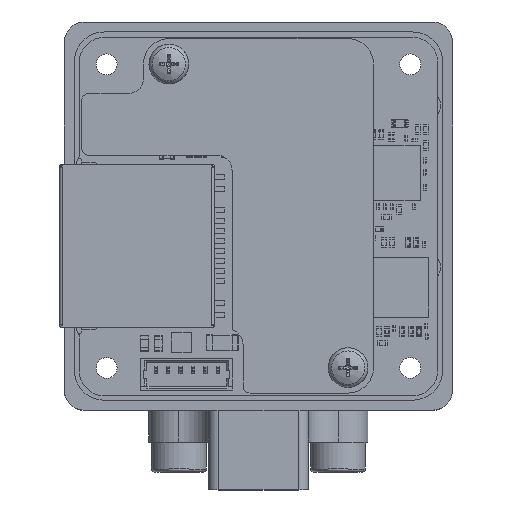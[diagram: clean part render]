
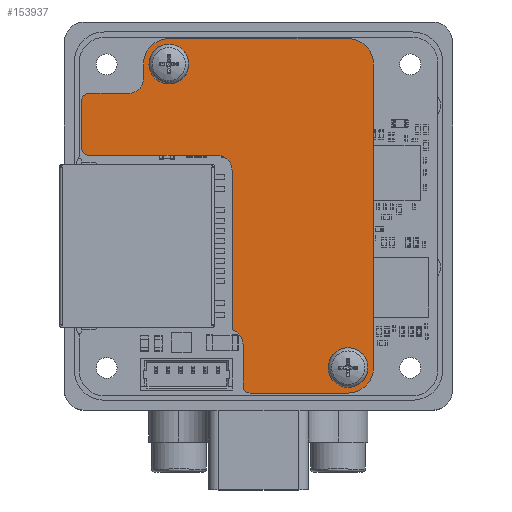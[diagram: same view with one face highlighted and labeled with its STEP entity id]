
A CAD part, top view. The second image highlights one B-rep face of the part: STEP entity #153937.
In plain terms, the highlighted planar face has unit normal (0, 0, 1).
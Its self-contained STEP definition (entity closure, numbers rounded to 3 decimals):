
#6514=CIRCLE('',#163752,2.);
#7049=CIRCLE('',#164742,0.7);
#7050=CIRCLE('',#164743,1.499);
#7051=CIRCLE('',#164744,1.501);
#7052=CIRCLE('',#164745,0.7);
#7053=CIRCLE('',#164746,2.55);
#7054=CIRCLE('',#164747,2.55);
#7055=CIRCLE('',#164748,2.55);
#7056=CIRCLE('',#164749,1.499);
#7057=CIRCLE('',#164750,0.7);
#7058=CIRCLE('',#164751,2.);
#14601=FACE_BOUND('',#26001,.T.);
#14602=FACE_BOUND('',#26002,.T.);
#16241=FACE_OUTER_BOUND('',#26000,.T.);
#26000=EDGE_LOOP('',(#101440,#101441,#101442,#101443,#101444,#101445,#101446,
#101447,#101448,#101449,#101450,#101451,#101452,#101453,#101454,#101455,
#101456,#101457));
#26001=EDGE_LOOP('',(#101458));
#26002=EDGE_LOOP('',(#101459));
#37481=LINE('',#237062,#50851);
#37482=LINE('',#237066,#50852);
#37483=LINE('',#237070,#50853);
#37484=LINE('',#237074,#50854);
#37485=LINE('',#237078,#50855);
#37486=LINE('',#237082,#50856);
#37487=LINE('',#237086,#50857);
#37488=LINE('',#237090,#50858);
#37489=LINE('',#237093,#50859);
#50851=VECTOR('',#187017,1.);
#50852=VECTOR('',#187020,1.);
#50853=VECTOR('',#187023,1.);
#50854=VECTOR('',#187026,1.);
#50855=VECTOR('',#187029,1.);
#50856=VECTOR('',#187032,1.);
#50857=VECTOR('',#187035,1.);
#50858=VECTOR('',#187038,1.);
#50859=VECTOR('',#187041,1.);
#62917=VERTEX_POINT('',#233748);
#63991=VERTEX_POINT('',#237058);
#63992=VERTEX_POINT('',#237059);
#63993=VERTEX_POINT('',#237061);
#63994=VERTEX_POINT('',#237063);
#63995=VERTEX_POINT('',#237065);
#63996=VERTEX_POINT('',#237067);
#63997=VERTEX_POINT('',#237069);
#63998=VERTEX_POINT('',#237071);
#63999=VERTEX_POINT('',#237073);
#64000=VERTEX_POINT('',#237075);
#64001=VERTEX_POINT('',#237077);
#64002=VERTEX_POINT('',#237079);
#64003=VERTEX_POINT('',#237081);
#64004=VERTEX_POINT('',#237083);
#64005=VERTEX_POINT('',#237085);
#64006=VERTEX_POINT('',#237087);
#64007=VERTEX_POINT('',#237089);
#64008=VERTEX_POINT('',#237091);
#64009=VERTEX_POINT('',#237094);
#75762=EDGE_CURVE('',#62917,#62917,#6514,.T.);
#77274=EDGE_CURVE('',#63991,#63992,#7049,.T.);
#77275=EDGE_CURVE('',#63993,#63991,#37481,.T.);
#77276=EDGE_CURVE('',#63994,#63993,#7050,.T.);
#77277=EDGE_CURVE('',#63995,#63994,#37482,.T.);
#77278=EDGE_CURVE('',#63996,#63995,#7051,.T.);
#77279=EDGE_CURVE('',#63997,#63996,#37483,.T.);
#77280=EDGE_CURVE('',#63998,#63997,#7052,.T.);
#77281=EDGE_CURVE('',#63999,#63998,#37484,.T.);
#77282=EDGE_CURVE('',#64000,#63999,#7053,.T.);
#77283=EDGE_CURVE('',#64001,#64000,#37485,.T.);
#77284=EDGE_CURVE('',#64002,#64001,#7054,.T.);
#77285=EDGE_CURVE('',#64003,#64002,#37486,.T.);
#77286=EDGE_CURVE('',#64004,#64003,#7055,.T.);
#77287=EDGE_CURVE('',#64005,#64004,#37487,.T.);
#77288=EDGE_CURVE('',#64006,#64005,#7056,.T.);
#77289=EDGE_CURVE('',#64007,#64006,#37488,.T.);
#77290=EDGE_CURVE('',#64008,#64007,#7057,.T.);
#77291=EDGE_CURVE('',#63992,#64008,#37489,.T.);
#77292=EDGE_CURVE('',#64009,#64009,#7058,.T.);
#101440=ORIENTED_EDGE('',*,*,#77274,.F.);
#101441=ORIENTED_EDGE('',*,*,#77275,.F.);
#101442=ORIENTED_EDGE('',*,*,#77276,.F.);
#101443=ORIENTED_EDGE('',*,*,#77277,.F.);
#101444=ORIENTED_EDGE('',*,*,#77278,.F.);
#101445=ORIENTED_EDGE('',*,*,#77279,.F.);
#101446=ORIENTED_EDGE('',*,*,#77280,.F.);
#101447=ORIENTED_EDGE('',*,*,#77281,.F.);
#101448=ORIENTED_EDGE('',*,*,#77282,.F.);
#101449=ORIENTED_EDGE('',*,*,#77283,.F.);
#101450=ORIENTED_EDGE('',*,*,#77284,.F.);
#101451=ORIENTED_EDGE('',*,*,#77285,.F.);
#101452=ORIENTED_EDGE('',*,*,#77286,.F.);
#101453=ORIENTED_EDGE('',*,*,#77287,.F.);
#101454=ORIENTED_EDGE('',*,*,#77288,.F.);
#101455=ORIENTED_EDGE('',*,*,#77289,.F.);
#101456=ORIENTED_EDGE('',*,*,#77290,.F.);
#101457=ORIENTED_EDGE('',*,*,#77291,.F.);
#101458=ORIENTED_EDGE('',*,*,#75762,.T.);
#101459=ORIENTED_EDGE('',*,*,#77292,.T.);
#140223=PLANE('',#164741);
#153937=ADVANCED_FACE('',(#16241,#14601,#14602),#140223,.F.);
#163752=AXIS2_PLACEMENT_3D('',#233749,#184126,#184127);
#164741=AXIS2_PLACEMENT_3D('',#237057,#187013,#187014);
#164742=AXIS2_PLACEMENT_3D('',#237060,#187015,#187016);
#164743=AXIS2_PLACEMENT_3D('',#237064,#187018,#187019);
#164744=AXIS2_PLACEMENT_3D('',#237068,#187021,#187022);
#164745=AXIS2_PLACEMENT_3D('',#237072,#187024,#187025);
#164746=AXIS2_PLACEMENT_3D('',#237076,#187027,#187028);
#164747=AXIS2_PLACEMENT_3D('',#237080,#187030,#187031);
#164748=AXIS2_PLACEMENT_3D('',#237084,#187033,#187034);
#164749=AXIS2_PLACEMENT_3D('',#237088,#187036,#187037);
#164750=AXIS2_PLACEMENT_3D('',#237092,#187039,#187040);
#164751=AXIS2_PLACEMENT_3D('',#237095,#187042,#187043);
#184126=DIRECTION('center_axis',(0.,0.,
-1.));
#184127=DIRECTION('ref_axis',(0.,1.,0.));
#187013=DIRECTION('center_axis',(0.,0.,
-1.));
#187014=DIRECTION('ref_axis',(-1.,0.,0.));
#187015=DIRECTION('center_axis',(0.,0.,
-1.));
#187016=DIRECTION('ref_axis',(0.,-1.,0.));
#187017=DIRECTION('',(-1.,0.,0.));
#187018=DIRECTION('center_axis',(0.,0.,
1.));
#187019=DIRECTION('ref_axis',(1.,-0.001,0.));
#187020=DIRECTION('',(0.,1.,0.));
#187021=DIRECTION('center_axis',(0.,0.,
1.));
#187022=DIRECTION('ref_axis',(1.,0.,0.));
#187023=DIRECTION('',(0.,1.,0.));
#187024=DIRECTION('center_axis',(0.,0.,
-1.));
#187025=DIRECTION('ref_axis',(0.,-1.,0.));
#187026=DIRECTION('',(-1.,0.,0.));
#187027=DIRECTION('center_axis',(0.,0.,
-1.));
#187028=DIRECTION('ref_axis',(1.,0.,0.));
#187029=DIRECTION('',(0.,-1.,0.));
#187030=DIRECTION('center_axis',(0.,0.,
-1.));
#187031=DIRECTION('ref_axis',(0.,1.,0.));
#187032=DIRECTION('',(1.,0.,0.));
#187033=DIRECTION('center_axis',(0.,0.,
-1.));
#187034=DIRECTION('ref_axis',(-1.,0.,0.));
#187035=DIRECTION('',(0.,1.,0.));
#187036=DIRECTION('center_axis',(0.,0.,
1.));
#187037=DIRECTION('ref_axis',(-0.001,-1.,
0.));
#187038=DIRECTION('',(1.,0.,0.));
#187039=DIRECTION('center_axis',(0.,0.,
-1.));
#187040=DIRECTION('ref_axis',(-1.,0.,
0.));
#187041=DIRECTION('',(0.,1.,0.));
#187042=DIRECTION('center_axis',(0.,0.,
-1.));
#187043=DIRECTION('ref_axis',(0.,1.,0.));
#233748=CARTESIAN_POINT('',(-9.,13.25,23.002));
#233749=CARTESIAN_POINT('Origin',(-9.,15.25,23.002));
#237057=CARTESIAN_POINT('Origin',(0.057,2.485,23.002));
#237058=CARTESIAN_POINT('',(-17.05,6.075,23.002));
#237059=CARTESIAN_POINT('',(-17.75,6.775,23.002));
#237060=CARTESIAN_POINT('Origin',(-17.05,6.775,23.002));
#237061=CARTESIAN_POINT('',(-4.15,6.075,23.002));
#237062=CARTESIAN_POINT('',(-4.15,6.075,23.002));
#237063=CARTESIAN_POINT('',(-2.65,4.575,23.002));
#237064=CARTESIAN_POINT('Origin',(-4.149,4.576,23.002));
#237065=CARTESIAN_POINT('',(-2.65,-11.454,23.002));
#237066=CARTESIAN_POINT('',(-2.65,-11.454,23.002));
#237067=CARTESIAN_POINT('',(-1.55,-12.9,23.002));
#237068=CARTESIAN_POINT('Origin',(-3.051,-12.9,23.002));
#237069=CARTESIAN_POINT('',(-1.55,-17.1,23.002));
#237070=CARTESIAN_POINT('',(-1.55,-17.1,23.002));
#237071=CARTESIAN_POINT('',(-0.85,-17.8,23.002));
#237072=CARTESIAN_POINT('Origin',(-0.85,-17.1,23.002));
#237073=CARTESIAN_POINT('',(9.,-17.8,23.002));
#237074=CARTESIAN_POINT('',(9.,-17.8,23.002));
#237075=CARTESIAN_POINT('',(11.55,-15.25,23.002));
#237076=CARTESIAN_POINT('Origin',(9.,-15.25,23.002));
#237077=CARTESIAN_POINT('',(11.55,15.25,23.002));
#237078=CARTESIAN_POINT('',(11.55,15.25,23.002));
#237079=CARTESIAN_POINT('',(9.,17.8,23.002));
#237080=CARTESIAN_POINT('Origin',(9.,15.25,23.002));
#237081=CARTESIAN_POINT('',(-9.,17.8,23.002));
#237082=CARTESIAN_POINT('',(-9.,17.8,23.002));
#237083=CARTESIAN_POINT('',(-11.55,15.25,23.002));
#237084=CARTESIAN_POINT('Origin',(-9.,15.25,23.002));
#237085=CARTESIAN_POINT('',(-11.55,13.8,23.002));
#237086=CARTESIAN_POINT('',(-11.55,13.8,23.002));
#237087=CARTESIAN_POINT('',(-13.05,12.3,23.002));
#237088=CARTESIAN_POINT('Origin',(-13.049,13.799,23.002));
#237089=CARTESIAN_POINT('',(-17.05,12.3,23.002));
#237090=CARTESIAN_POINT('',(-17.05,12.3,23.002));
#237091=CARTESIAN_POINT('',(-17.75,11.6,23.002));
#237092=CARTESIAN_POINT('Origin',(-17.05,11.6,23.002));
#237093=CARTESIAN_POINT('',(-17.75,6.775,23.002));
#237094=CARTESIAN_POINT('',(9.,-17.25,23.002));
#237095=CARTESIAN_POINT('Origin',(9.,-15.25,23.002));
